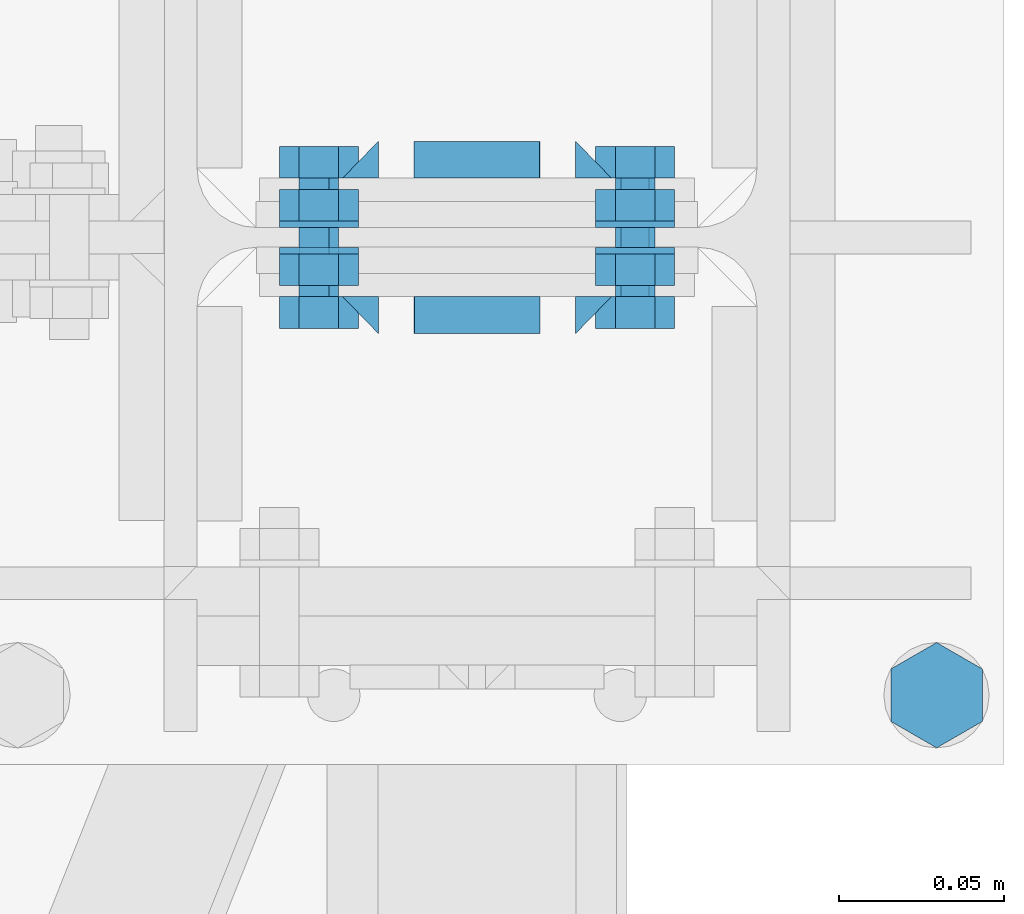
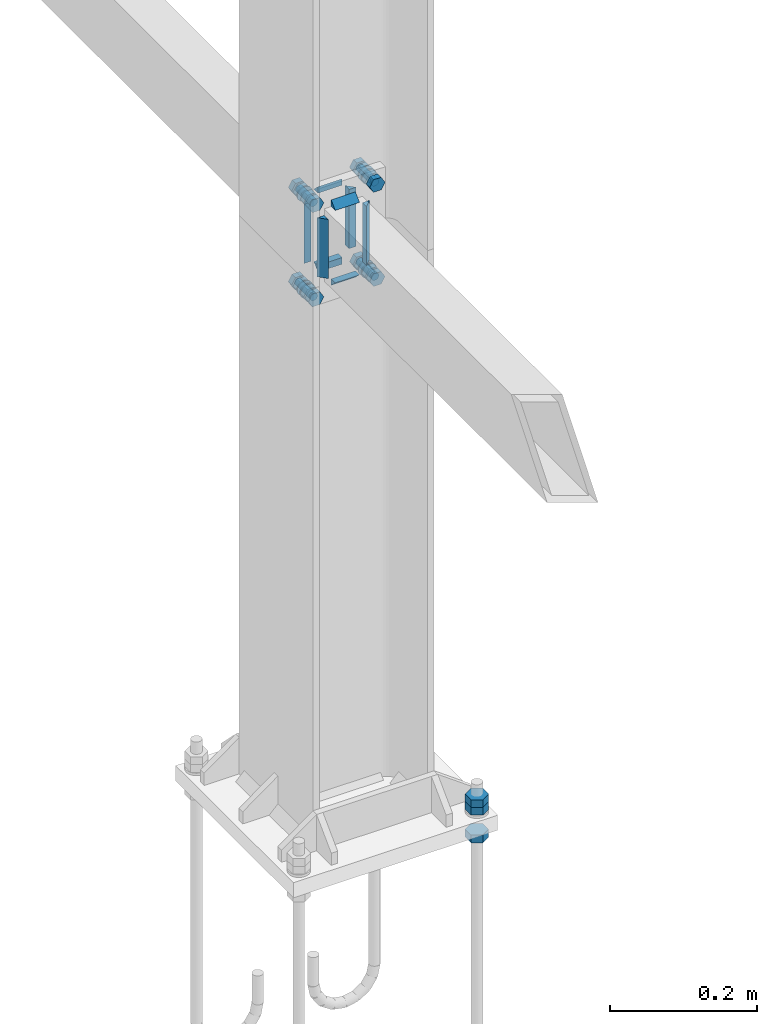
# One storey, part 181 of 251: 34 mechanical fasteners, 16 fasteners.
"""IFC4 building model written with IfcOpenShell, lengths in metres."""

from ifc_helpers import new_model, si_unit, frame, origin_with_axes, place, context, project, spatial, polyline, outline, extrude, type_object, element, save


model = new_model("IFC4")

# Units and contexts
model_context = context("Model", 3, precision=1e-05, world=origin_with_axes())
ifc_project = project(units=[si_unit("LENGTHUNIT", "METRE"), si_unit("AREAUNIT", "SQUARE_METRE"), si_unit("VOLUMEUNIT", "CUBIC_METRE"), si_unit("MASSUNIT", "GRAM", prefix="KILO"), si_unit("TIMEUNIT", "SECOND"), si_unit("PLANEANGLEUNIT", "RADIAN"), si_unit("SOLIDANGLEUNIT", "STERADIAN"), si_unit("THERMODYNAMICTEMPERATUREUNIT", "DEGREE_CELSIUS")], contexts=[model_context])

# Site, building, storey
placement_1 = place(None, origin_with_axes())
site = spatial("IfcSite", under=ifc_project, at=placement_1, Name="Italia", CompositionType="ELEMENT")
building = spatial("IfcBuilding", under=site, at=placement_1, Name="Deposito", CompositionType="ELEMENT")
storey = spatial("IfcBuildingStorey", under=building, at=placement_1, Name="Storey 0", CompositionType="ELEMENT", Elevation=0.0)

# Fasteners
fastener_type_1 = type_object("IfcFastenerType", Name="Collegamenti -001_-002 -002_-001 -002_-003 -003_-002 -003_-004 -004_-003 -004_-008 -008_-004 -009_-010 -010_-009 -010_-011 -011_-010 -011_-012 -012_-011 -012_-016 -016_-012", PredefinedType="WELD")
placement_2 = place(placement_1, origin_with_axes())
fastener_1_placement = place(placement_2, origin_with_axes())
element("IfcFastener", 1, at=fastener_1_placement, inside=storey, type_object=fastener_type_1, Name="Collegamenti -001_-002 -002_-001 -002_-003 -003_-002 -003_-004 -004_-003 -004_-008 -008_-004 -009_-010 -010_-009 -010_-011 -011_-010 -011_-012 -012_-011 -012_-016 -016_-012", context=model_context, shape_type="SweptSolid", body=[
    extrude(outline(polyline([(0.0, 0.0), (0.0111732, -0.0108382), (0.0, -0.0108382), (0.0, 0.0)])), frame((20.0191, 14.982, 1.07079), z_axis=(-1.0, 0.0, 0.0), x_axis=(0.0, -1.0, 0.0)), (0.0, 0.0, 1.0), 0.0381012),
])
fastener_type_2 = type_object("IfcFastenerType", Name="Collegamenti -001_-002 -002_-001 -002_-003 -003_-002 -003_-004 -004_-003 -004_-008 -008_-004 -009_-010 -010_-009 -010_-011 -011_-010 -011_-012 -012_-011 -012_-016 -016_-012", PredefinedType="WELD")
fastener_2_placement = place(placement_2, origin_with_axes())
element("IfcFastener", 2, at=fastener_2_placement, inside=storey, type_object=fastener_type_2, Name="Collegamenti -001_-002 -002_-001 -002_-003 -003_-002 -003_-004 -004_-003 -004_-008 -008_-004 -009_-010 -010_-009 -010_-011 -011_-010 -011_-012 -012_-011 -012_-016 -016_-012", context=model_context, shape_type="SweptSolid", body=[
    extrude(outline(polyline([(0.0, 0.0), (-0.0111732, 0.0108376), (0.0, 0.0108376), (0.0, 0.0)])), frame((20.0408, 14.982, 0.95095), z_axis=(0.0, 0.0, 1.0), x_axis=(0.0, 1.0, 0.0)), (0.0, 0.0, 1.0), 0.0980999),
])
fastener_type_3 = type_object("IfcFastenerType", Name="Collegamenti -001_-002 -002_-001 -002_-003 -003_-002 -003_-004 -004_-003 -004_-008 -008_-004 -009_-010 -010_-009 -010_-011 -011_-010 -011_-012 -012_-011 -012_-016 -016_-012", PredefinedType="WELD")
fastener_3_placement = place(placement_2, origin_with_axes())
element("IfcFastener", 3, at=fastener_3_placement, inside=storey, type_object=fastener_type_3, Name="Collegamenti -001_-002 -002_-001 -002_-003 -003_-002 -003_-004 -004_-003 -004_-008 -008_-004 -009_-010 -010_-009 -010_-011 -011_-010 -011_-012 -012_-011 -012_-016 -016_-012", context=model_context, shape_type="SweptSolid", body=[
    extrude(outline(polyline([(0.0, 0.0), (-0.0111732, 0.0108376), (0.0, 0.0108376), (0.0, 0.0)])), frame((19.9592, 14.982, 1.04905), z_axis=(0.0, 0.0, -1.0), x_axis=(0.0, 1.0, 0.0)), (0.0, 0.0, 1.0), 0.0980999),
])
fastener_type_4 = type_object("IfcFastenerType", Name="Collegamenti -001_-002 -002_-001 -002_-003 -003_-002 -003_-004 -004_-003 -004_-008 -008_-004 -009_-010 -010_-009 -010_-011 -011_-010 -011_-012 -012_-011 -012_-016 -016_-012", PredefinedType="WELD")
fastener_4_placement = place(placement_2, origin_with_axes())
element("IfcFastener", 4, at=fastener_4_placement, inside=storey, type_object=fastener_type_4, Name="Collegamenti -001_-002 -002_-001 -002_-003 -003_-002 -003_-004 -004_-003 -004_-008 -008_-004 -009_-010 -010_-009 -010_-011 -011_-010 -011_-012 -012_-011 -012_-016 -016_-012", context=model_context, shape_type="SweptSolid", body=[
    extrude(outline(polyline([(0.0, 0.0), (-0.0111732, 0.0108382), (0.0, 0.0108382), (0.0, 0.0)])), frame((19.9809, 14.982, 0.929212), z_axis=(1.0, 0.0, 0.0), x_axis=(0.0, 1.0, 0.0)), (0.0, 0.0, 1.0), 0.0381012),
])
fastener_type_5 = type_object("IfcFastenerType", Name="Collegamenti -001_-002 -002_-001 -002_-003 -003_-002 -003_-004 -004_-003 -004_-008 -008_-004 -009_-010 -010_-009 -010_-011 -011_-010 -011_-012 -012_-011 -012_-016 -016_-012", PredefinedType="WELD")
fastener_5_placement = place(placement_2, origin_with_axes())
element("IfcFastener", 5, at=fastener_5_placement, inside=storey, type_object=fastener_type_5, Name="Collegamenti -001_-002 -002_-001 -002_-003 -003_-002 -003_-004 -004_-003 -004_-008 -008_-004 -009_-010 -010_-009 -010_-011 -011_-010 -011_-012 -012_-011 -012_-016 -016_-012", context=model_context, shape_type="SweptSolid", body=[
    extrude(outline(polyline([(0.0, 0.0), (0.0111732, -0.0108382), (0.0, -0.0108382), (0.0, 0.0)])), frame((20.0191, 14.982, 1.07079), z_axis=(-1.0, 0.0, 0.0), x_axis=(0.0, -1.0, 0.0)), (0.0, 0.0, 1.0), 0.0381012),
])
fastener_type_6 = type_object("IfcFastenerType", Name="Collegamenti -001_-002 -002_-001 -002_-003 -003_-002 -003_-004 -004_-003 -004_-008 -008_-004 -009_-010 -010_-009 -010_-011 -011_-010 -011_-012 -012_-011 -012_-016 -016_-012", PredefinedType="WELD")
fastener_6_placement = place(placement_2, origin_with_axes())
element("IfcFastener", 6, at=fastener_6_placement, inside=storey, type_object=fastener_type_6, Name="Collegamenti -001_-002 -002_-001 -002_-003 -003_-002 -003_-004 -004_-003 -004_-008 -008_-004 -009_-010 -010_-009 -010_-011 -011_-010 -011_-012 -012_-011 -012_-016 -016_-012", context=model_context, shape_type="SweptSolid", body=[
    extrude(outline(polyline([(0.0, 0.0), (-0.0111732, 0.0108376), (0.0, 0.0108376), (0.0, 0.0)])), frame((20.0408, 14.982, 0.95095), z_axis=(0.0, 0.0, 1.0), x_axis=(0.0, 1.0, 0.0)), (0.0, 0.0, 1.0), 0.0980999),
])
fastener_type_7 = type_object("IfcFastenerType", Name="Collegamenti -001_-002 -002_-001 -002_-003 -003_-002 -003_-004 -004_-003 -004_-008 -008_-004 -009_-010 -010_-009 -010_-011 -011_-010 -011_-012 -012_-011 -012_-016 -016_-012", PredefinedType="WELD")
fastener_7_placement = place(placement_2, origin_with_axes())
element("IfcFastener", 7, at=fastener_7_placement, inside=storey, type_object=fastener_type_7, Name="Collegamenti -001_-002 -002_-001 -002_-003 -003_-002 -003_-004 -004_-003 -004_-008 -008_-004 -009_-010 -010_-009 -010_-011 -011_-010 -011_-012 -012_-011 -012_-016 -016_-012", context=model_context, shape_type="SweptSolid", body=[
    extrude(outline(polyline([(0.0, 0.0), (-0.0111732, 0.0108376), (0.0, 0.0108376), (0.0, 0.0)])), frame((19.9592, 14.982, 1.04905), z_axis=(0.0, 0.0, -1.0), x_axis=(0.0, 1.0, 0.0)), (0.0, 0.0, 1.0), 0.0980999),
])
fastener_type_8 = type_object("IfcFastenerType", Name="Collegamenti -001_-002 -002_-001 -002_-003 -003_-002 -003_-004 -004_-003 -004_-008 -008_-004 -009_-010 -010_-009 -010_-011 -011_-010 -011_-012 -012_-011 -012_-016 -016_-012", PredefinedType="WELD")
fastener_8_placement = place(placement_2, origin_with_axes())
element("IfcFastener", 8, at=fastener_8_placement, inside=storey, type_object=fastener_type_8, Name="Collegamenti -001_-002 -002_-001 -002_-003 -003_-002 -003_-004 -004_-003 -004_-008 -008_-004 -009_-010 -010_-009 -010_-011 -011_-010 -011_-012 -012_-011 -012_-016 -016_-012", context=model_context, shape_type="SweptSolid", body=[
    extrude(outline(polyline([(0.0, 0.0), (-0.0111732, 0.0108382), (0.0, 0.0108382), (0.0, 0.0)])), frame((19.9809, 14.982, 0.929212), z_axis=(1.0, 0.0, 0.0), x_axis=(0.0, 1.0, 0.0)), (0.0, 0.0, 1.0), 0.0381012),
])

# Mechanical fasteners
mechanical_fastener_type_1 = type_object("IfcMechanicalFastenerType", Name="Collegamenti -001_-002 -002_-001 -002_-003 -003_-002 -003_-004 -004_-003 -004_-008 -008_-004 -009_-010 -010_-009 -010_-011 -011_-010 -011_-012 -012_-011 -012_-016 -016_-012", PredefinedType="BOLT")
mechanical_fastener_1_placement = place(placement_2, origin_with_axes())
element("IfcMechanicalFastener", 9, at=mechanical_fastener_1_placement, inside=storey, type_object=mechanical_fastener_type_1, Name="Collegamenti -001_-002 -002_-001 -002_-003 -003_-002 -003_-004 -004_-003 -004_-008 -008_-004 -009_-010 -010_-009 -010_-011 -011_-010 -011_-012 -012_-011 -012_-016 -016_-012", NominalDiameter=0.0119993, context=model_context, shape_type="SweptSolid", body=[
    extrude(outline(polyline([(0.0, 0.0), (-0.012001, 0.0), (-0.0179996, 0.0103923), (-0.012001, 0.0207846), (0.0, 0.0207846), (0.00600052, 0.0103923), (0.0, 0.0)])), frame((19.958, 14.982, 0.911608), z_axis=(0.0, -1.0, 0.0), x_axis=(1.0, 0.0, 0.0)), (0.0, 0.0, 1.0), 0.00960064),
])
mechanical_fastener_type_2 = type_object("IfcMechanicalFastenerType", Name="Collegamenti -001_-002 -002_-001 -002_-003 -003_-002 -003_-004 -004_-003 -004_-008 -008_-004 -009_-010 -010_-009 -010_-011 -011_-010 -011_-012 -012_-011 -012_-016 -016_-012", PredefinedType="BOLT")
mechanical_fastener_2_placement = place(placement_2, origin_with_axes())
element("IfcMechanicalFastener", 10, at=mechanical_fastener_2_placement, inside=storey, type_object=mechanical_fastener_type_2, Name="Collegamenti -001_-002 -002_-001 -002_-003 -003_-002 -003_-004 -004_-003 -004_-008 -008_-004 -009_-010 -010_-009 -010_-011 -011_-010 -011_-012 -012_-011 -012_-016 -016_-012", NominalDiameter=0.012, context=model_context, shape_type="SweptSolid", body=[
    extrude(outline(polyline([(0.0, 0.0), (-0.000204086, -0.00155294), (-0.000804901, -0.00300002), (-0.00175858, -0.00424266), (-0.00300026, -0.00519615), (-0.00444794, -0.00579554), (-0.00600052, -0.00599998), (-0.0075531, -0.00579554), (-0.00900078, -0.00519615), (-0.0102425, -0.00424266), (-0.0111961, -0.00300002), (-0.011797, -0.00155294), (-0.012001, 0.0), (-0.011797, 0.00155294), (-0.0111961, 0.00300002), (-0.0102425, 0.00424266), (-0.00900078, 0.00519615), (-0.0075531, 0.00579554), (-0.00600052, 0.00599998), (-0.00444794, 0.00579554), (-0.00300026, 0.00519615), (-0.00175858, 0.00424266), (-0.000804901, 0.00300002), (-0.000204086, 0.00155294), (0.0, 0.0)])), frame((19.958, 15.021, 0.922), z_axis=(0.0, -1.0, 0.0), x_axis=(1.0, 0.0, 0.0)), (0.0, 0.0, 1.0), 0.0389996),
])
mechanical_fastener_type_3 = type_object("IfcMechanicalFastenerType", Name="Collegamenti -001_-002 -002_-001 -002_-003 -003_-002 -003_-004 -004_-003 -004_-008 -008_-004 -009_-010 -010_-009 -010_-011 -011_-010 -011_-012 -012_-011 -012_-016 -016_-012", PredefinedType="BOLT")
mechanical_fastener_3_placement = place(placement_2, origin_with_axes())
element("IfcMechanicalFastener", 11, at=mechanical_fastener_3_placement, inside=storey, type_object=mechanical_fastener_type_3, Name="Collegamenti -001_-002 -002_-001 -002_-003 -003_-002 -003_-004 -004_-003 -004_-008 -008_-004 -009_-010 -010_-009 -010_-011 -011_-010 -011_-012 -012_-011 -012_-016 -016_-012", NominalDiameter=0.0119993, context=model_context, shape_type="SweptSolid", body=[
    extrude(outline(polyline([(0.0, 0.0), (-0.012001, 0.0), (-0.0179996, 0.0103923), (-0.012001, 0.0207846), (0.0, 0.0207846), (0.00600052, 0.0103923), (0.0, 0.0)])), frame((19.958, 15.0146, 0.911608), z_axis=(0.0, -1.0, 0.0), x_axis=(1.0, 0.0, 0.0)), (0.0, 0.0, 1.0), 0.00959969),
])
mechanical_fastener_type_4 = type_object("IfcMechanicalFastenerType", Name="Collegamenti -001_-002 -002_-001 -002_-003 -003_-002 -003_-004 -004_-003 -004_-008 -008_-004 -009_-010 -010_-009 -010_-011 -011_-010 -011_-012 -012_-011 -012_-016 -016_-012", PredefinedType="BOLT")
mechanical_fastener_4_placement = place(placement_2, origin_with_axes())
element("IfcMechanicalFastener", 12, at=mechanical_fastener_4_placement, inside=storey, type_object=mechanical_fastener_type_4, Name="Collegamenti -001_-002 -002_-001 -002_-003 -003_-002 -003_-004 -004_-003 -004_-008 -008_-004 -009_-010 -010_-009 -010_-011 -011_-010 -011_-012 -012_-011 -012_-016 -016_-012", NominalDiameter=0.024, context=model_context, shape_type="SweptSolid", body=[
    extrude(outline(polyline([(0.0, 0.0), (-0.000408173, -0.00310582), (-0.00160599, -0.00599998), (-0.00351334, -0.00848526), (-0.00599861, -0.0103923), (-0.00889397, -0.0115911), (-0.0119991, -0.012), (-0.0151043, -0.0115911), (-0.0179996, -0.0103923), (-0.0204849, -0.00848526), (-0.0223923, -0.00599998), (-0.0235901, -0.00310582), (-0.0239983, 0.0), (-0.0235901, 0.00310582), (-0.0223923, 0.00599998), (-0.0204849, 0.00848526), (-0.0179996, 0.0103923), (-0.0151043, 0.0115911), (-0.0119991, 0.012), (-0.00889397, 0.0115911), (-0.00599861, 0.0103923), (-0.00351334, 0.00848526), (-0.00160599, 0.00599998), (-0.000408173, 0.00310582), (0.0, 0.0)])), frame((19.964, 15.005, 0.922), z_axis=(0.0, -1.0, 0.0), x_axis=(1.0, 0.0, 0.0)), (0.0, 0.0, 1.0), 0.00199986),
])
mechanical_fastener_type_5 = type_object("IfcMechanicalFastenerType", Name="Collegamenti -001_-002 -002_-001 -002_-003 -003_-002 -003_-004 -004_-003 -004_-008 -008_-004 -009_-010 -010_-009 -010_-011 -011_-010 -011_-012 -012_-011 -012_-016 -016_-012", PredefinedType="BOLT")
mechanical_fastener_5_placement = place(placement_2, origin_with_axes())
element("IfcMechanicalFastener", 13, at=mechanical_fastener_5_placement, inside=storey, type_object=mechanical_fastener_type_5, Name="Collegamenti -001_-002 -002_-001 -002_-003 -003_-002 -003_-004 -004_-003 -004_-008 -008_-004 -009_-010 -010_-009 -010_-011 -011_-010 -011_-012 -012_-011 -012_-016 -016_-012", NominalDiameter=0.0119993, context=model_context, shape_type="SweptSolid", body=[
    extrude(outline(polyline([(0.0, 0.0), (-0.012001, 0.0), (-0.0180016, 0.0103923), (-0.012001, 0.0207846), (0.0, 0.0207846), (0.00599861, 0.0103923), (0.0, 0.0)])), frame((20.054, 14.982, 0.911608), z_axis=(0.0, -1.0, 0.0), x_axis=(1.0, 0.0, 0.0)), (0.0, 0.0, 1.0), 0.00960064),
])
mechanical_fastener_type_6 = type_object("IfcMechanicalFastenerType", Name="Collegamenti -001_-002 -002_-001 -002_-003 -003_-002 -003_-004 -004_-003 -004_-008 -008_-004 -009_-010 -010_-009 -010_-011 -011_-010 -011_-012 -012_-011 -012_-016 -016_-012", PredefinedType="BOLT")
mechanical_fastener_6_placement = place(placement_2, origin_with_axes())
element("IfcMechanicalFastener", 14, at=mechanical_fastener_6_placement, inside=storey, type_object=mechanical_fastener_type_6, Name="Collegamenti -001_-002 -002_-001 -002_-003 -003_-002 -003_-004 -004_-003 -004_-008 -008_-004 -009_-010 -010_-009 -010_-011 -011_-010 -011_-012 -012_-011 -012_-016 -016_-012", NominalDiameter=0.012, context=model_context, shape_type="SweptSolid", body=[
    extrude(outline(polyline([(0.0, 0.0), (-0.000204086, -0.00155294), (-0.000804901, -0.00300002), (-0.00175858, -0.00424266), (-0.00300026, -0.00519615), (-0.00444794, -0.00579554), (-0.00600052, -0.00599998), (-0.0075531, -0.00579554), (-0.00900078, -0.00519615), (-0.0102425, -0.00424266), (-0.0111961, -0.00300002), (-0.011797, -0.00155294), (-0.012001, 0.0), (-0.011797, 0.00155294), (-0.0111961, 0.00300002), (-0.0102425, 0.00424266), (-0.00900078, 0.00519615), (-0.0075531, 0.00579554), (-0.00600052, 0.00599998), (-0.00444794, 0.00579554), (-0.00300026, 0.00519615), (-0.00175858, 0.00424266), (-0.000804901, 0.00300002), (-0.000204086, 0.00155294), (0.0, 0.0)])), frame((20.054, 15.021, 0.922), z_axis=(0.0, -1.0, 0.0), x_axis=(1.0, 0.0, 0.0)), (0.0, 0.0, 1.0), 0.0389996),
])
mechanical_fastener_type_7 = type_object("IfcMechanicalFastenerType", Name="Collegamenti -001_-002 -002_-001 -002_-003 -003_-002 -003_-004 -004_-003 -004_-008 -008_-004 -009_-010 -010_-009 -010_-011 -011_-010 -011_-012 -012_-011 -012_-016 -016_-012", PredefinedType="BOLT")
mechanical_fastener_7_placement = place(placement_2, origin_with_axes())
element("IfcMechanicalFastener", 15, at=mechanical_fastener_7_placement, inside=storey, type_object=mechanical_fastener_type_7, Name="Collegamenti -001_-002 -002_-001 -002_-003 -003_-002 -003_-004 -004_-003 -004_-008 -008_-004 -009_-010 -010_-009 -010_-011 -011_-010 -011_-012 -012_-011 -012_-016 -016_-012", NominalDiameter=0.0119993, context=model_context, shape_type="SweptSolid", body=[
    extrude(outline(polyline([(0.0, 0.0), (-0.012001, 0.0), (-0.0180016, 0.0103923), (-0.012001, 0.0207846), (0.0, 0.0207846), (0.00599861, 0.0103923), (0.0, 0.0)])), frame((20.054, 15.0146, 0.911608), z_axis=(0.0, -1.0, 0.0), x_axis=(1.0, 0.0, 0.0)), (0.0, 0.0, 1.0), 0.00959969),
])
mechanical_fastener_type_8 = type_object("IfcMechanicalFastenerType", Name="Collegamenti -001_-002 -002_-001 -002_-003 -003_-002 -003_-004 -004_-003 -004_-008 -008_-004 -009_-010 -010_-009 -010_-011 -011_-010 -011_-012 -012_-011 -012_-016 -016_-012", PredefinedType="BOLT")
mechanical_fastener_8_placement = place(placement_2, origin_with_axes())
element("IfcMechanicalFastener", 16, at=mechanical_fastener_8_placement, inside=storey, type_object=mechanical_fastener_type_8, Name="Collegamenti -001_-002 -002_-001 -002_-003 -003_-002 -003_-004 -004_-003 -004_-008 -008_-004 -009_-010 -010_-009 -010_-011 -011_-010 -011_-012 -012_-011 -012_-016 -016_-012", NominalDiameter=0.024, context=model_context, shape_type="SweptSolid", body=[
    extrude(outline(polyline([(0.0, 0.0), (-0.000408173, -0.00310582), (-0.00160599, -0.00599998), (-0.00351334, -0.00848526), (-0.00599861, -0.0103923), (-0.00889397, -0.0115911), (-0.0119991, -0.012), (-0.0151043, -0.0115911), (-0.0179996, -0.0103923), (-0.0204849, -0.00848526), (-0.0223923, -0.00599998), (-0.0235901, -0.00310582), (-0.0239983, 0.0), (-0.0235901, 0.00310582), (-0.0223923, 0.00599998), (-0.0204849, 0.00848526), (-0.0179996, 0.0103923), (-0.0151043, 0.0115911), (-0.0119991, 0.012), (-0.00889397, 0.0115911), (-0.00599861, 0.0103923), (-0.00351334, 0.00848526), (-0.00160599, 0.00599998), (-0.000408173, 0.00310582), (0.0, 0.0)])), frame((20.06, 15.005, 0.922), z_axis=(0.0, -1.0, 0.0), x_axis=(1.0, 0.0, 0.0)), (0.0, 0.0, 1.0), 0.00199986),
])
mechanical_fastener_type_9 = type_object("IfcMechanicalFastenerType", Name="Collegamenti -001_-002 -002_-001 -002_-003 -003_-002 -003_-004 -004_-003 -004_-008 -008_-004 -009_-010 -010_-009 -010_-011 -011_-010 -011_-012 -012_-011 -012_-016 -016_-012", PredefinedType="BOLT")
mechanical_fastener_9_placement = place(placement_2, origin_with_axes())
element("IfcMechanicalFastener", 17, at=mechanical_fastener_9_placement, inside=storey, type_object=mechanical_fastener_type_9, Name="Collegamenti -001_-002 -002_-001 -002_-003 -003_-002 -003_-004 -004_-003 -004_-008 -008_-004 -009_-010 -010_-009 -010_-011 -011_-010 -011_-012 -012_-011 -012_-016 -016_-012", NominalDiameter=0.0119993, context=model_context, shape_type="SweptSolid", body=[
    extrude(outline(polyline([(0.0, 0.0), (-0.012001, 0.0), (-0.0179996, 0.0103923), (-0.012001, 0.0207846), (0.0, 0.0207846), (0.00600052, 0.0103923), (0.0, 0.0)])), frame((19.958, 14.982, 1.06761), z_axis=(0.0, -1.0, 0.0), x_axis=(1.0, 0.0, 0.0)), (0.0, 0.0, 1.0), 0.00960064),
])
mechanical_fastener_type_10 = type_object("IfcMechanicalFastenerType", Name="Collegamenti -001_-002 -002_-001 -002_-003 -003_-002 -003_-004 -004_-003 -004_-008 -008_-004 -009_-010 -010_-009 -010_-011 -011_-010 -011_-012 -012_-011 -012_-016 -016_-012", PredefinedType="BOLT")
mechanical_fastener_10_placement = place(placement_2, origin_with_axes())
element("IfcMechanicalFastener", 18, at=mechanical_fastener_10_placement, inside=storey, type_object=mechanical_fastener_type_10, Name="Collegamenti -001_-002 -002_-001 -002_-003 -003_-002 -003_-004 -004_-003 -004_-008 -008_-004 -009_-010 -010_-009 -010_-011 -011_-010 -011_-012 -012_-011 -012_-016 -016_-012", NominalDiameter=0.012, context=model_context, shape_type="SweptSolid", body=[
    extrude(outline(polyline([(0.0, 0.0), (-0.000204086, -0.00155294), (-0.000804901, -0.00300002), (-0.00175858, -0.00424266), (-0.00300026, -0.00519609), (-0.00444794, -0.0057956), (-0.00600052, -0.00600004), (-0.0075531, -0.0057956), (-0.00900078, -0.00519609), (-0.0102425, -0.00424266), (-0.0111961, -0.00300002), (-0.011797, -0.00155294), (-0.012001, 0.0), (-0.011797, 0.00155294), (-0.0111961, 0.00300002), (-0.0102425, 0.00424266), (-0.00900078, 0.00519609), (-0.0075531, 0.0057956), (-0.00600052, 0.00600004), (-0.00444794, 0.0057956), (-0.00300026, 0.00519609), (-0.00175858, 0.00424266), (-0.000804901, 0.00300002), (-0.000204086, 0.00155294), (0.0, 0.0)])), frame((19.958, 15.021, 1.078), z_axis=(0.0, -1.0, 0.0), x_axis=(1.0, 0.0, 0.0)), (0.0, 0.0, 1.0), 0.0389996),
])
mechanical_fastener_type_11 = type_object("IfcMechanicalFastenerType", Name="Collegamenti -001_-002 -002_-001 -002_-003 -003_-002 -003_-004 -004_-003 -004_-008 -008_-004 -009_-010 -010_-009 -010_-011 -011_-010 -011_-012 -012_-011 -012_-016 -016_-012", PredefinedType="BOLT")
mechanical_fastener_11_placement = place(placement_2, origin_with_axes())
element("IfcMechanicalFastener", 19, at=mechanical_fastener_11_placement, inside=storey, type_object=mechanical_fastener_type_11, Name="Collegamenti -001_-002 -002_-001 -002_-003 -003_-002 -003_-004 -004_-003 -004_-008 -008_-004 -009_-010 -010_-009 -010_-011 -011_-010 -011_-012 -012_-011 -012_-016 -016_-012", NominalDiameter=0.0119993, context=model_context, shape_type="SweptSolid", body=[
    extrude(outline(polyline([(0.0, 0.0), (-0.012001, 0.0), (-0.0179996, 0.0103923), (-0.012001, 0.0207846), (0.0, 0.0207846), (0.00600052, 0.0103923), (0.0, 0.0)])), frame((19.958, 15.0146, 1.06761), z_axis=(0.0, -1.0, 0.0), x_axis=(1.0, 0.0, 0.0)), (0.0, 0.0, 1.0), 0.00959969),
])
mechanical_fastener_type_12 = type_object("IfcMechanicalFastenerType", Name="Collegamenti -001_-002 -002_-001 -002_-003 -003_-002 -003_-004 -004_-003 -004_-008 -008_-004 -009_-010 -010_-009 -010_-011 -011_-010 -011_-012 -012_-011 -012_-016 -016_-012", PredefinedType="BOLT")
mechanical_fastener_12_placement = place(placement_2, origin_with_axes())
element("IfcMechanicalFastener", 20, at=mechanical_fastener_12_placement, inside=storey, type_object=mechanical_fastener_type_12, Name="Collegamenti -001_-002 -002_-001 -002_-003 -003_-002 -003_-004 -004_-003 -004_-008 -008_-004 -009_-010 -010_-009 -010_-011 -011_-010 -011_-012 -012_-011 -012_-016 -016_-012", NominalDiameter=0.024, context=model_context, shape_type="SweptSolid", body=[
    extrude(outline(polyline([(0.0, 0.0), (-0.000408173, -0.00310588), (-0.00160599, -0.00600004), (-0.00351334, -0.00848532), (-0.00599861, -0.0103923), (-0.00889397, -0.0115911), (-0.0119991, -0.012), (-0.0151043, -0.0115911), (-0.0179996, -0.0103923), (-0.0204849, -0.00848532), (-0.0223923, -0.00600004), (-0.0235901, -0.00310588), (-0.0239983, 0.0), (-0.0235901, 0.00310588), (-0.0223923, 0.00600004), (-0.0204849, 0.00848532), (-0.0179996, 0.0103923), (-0.0151043, 0.0115911), (-0.0119991, 0.012), (-0.00889397, 0.0115911), (-0.00599861, 0.0103923), (-0.00351334, 0.00848532), (-0.00160599, 0.00600004), (-0.000408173, 0.00310588), (0.0, 0.0)])), frame((19.964, 15.005, 1.078), z_axis=(0.0, -1.0, 0.0), x_axis=(1.0, 0.0, 0.0)), (0.0, 0.0, 1.0), 0.00199986),
])
mechanical_fastener_type_13 = type_object("IfcMechanicalFastenerType", Name="Collegamenti -001_-002 -002_-001 -002_-003 -003_-002 -003_-004 -004_-003 -004_-008 -008_-004 -009_-010 -010_-009 -010_-011 -011_-010 -011_-012 -012_-011 -012_-016 -016_-012", PredefinedType="BOLT")
mechanical_fastener_13_placement = place(placement_2, origin_with_axes())
element("IfcMechanicalFastener", 21, at=mechanical_fastener_13_placement, inside=storey, type_object=mechanical_fastener_type_13, Name="Collegamenti -001_-002 -002_-001 -002_-003 -003_-002 -003_-004 -004_-003 -004_-008 -008_-004 -009_-010 -010_-009 -010_-011 -011_-010 -011_-012 -012_-011 -012_-016 -016_-012", NominalDiameter=0.0119993, context=model_context, shape_type="SweptSolid", body=[
    extrude(outline(polyline([(0.0, 0.0), (-0.012001, 0.0), (-0.0180016, 0.0103923), (-0.012001, 0.0207846), (0.0, 0.0207846), (0.00599861, 0.0103923), (0.0, 0.0)])), frame((20.054, 14.982, 1.06761), z_axis=(0.0, -1.0, 0.0), x_axis=(1.0, 0.0, 0.0)), (0.0, 0.0, 1.0), 0.00960064),
])
mechanical_fastener_type_14 = type_object("IfcMechanicalFastenerType", Name="Collegamenti -001_-002 -002_-001 -002_-003 -003_-002 -003_-004 -004_-003 -004_-008 -008_-004 -009_-010 -010_-009 -010_-011 -011_-010 -011_-012 -012_-011 -012_-016 -016_-012", PredefinedType="BOLT")
mechanical_fastener_14_placement = place(placement_2, origin_with_axes())
element("IfcMechanicalFastener", 22, at=mechanical_fastener_14_placement, inside=storey, type_object=mechanical_fastener_type_14, Name="Collegamenti -001_-002 -002_-001 -002_-003 -003_-002 -003_-004 -004_-003 -004_-008 -008_-004 -009_-010 -010_-009 -010_-011 -011_-010 -011_-012 -012_-011 -012_-016 -016_-012", NominalDiameter=0.012, context=model_context, shape_type="SweptSolid", body=[
    extrude(outline(polyline([(0.0, 0.0), (-0.000204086, -0.00155294), (-0.000804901, -0.00300002), (-0.00175858, -0.00424266), (-0.00300026, -0.00519609), (-0.00444794, -0.0057956), (-0.00600052, -0.00600004), (-0.0075531, -0.0057956), (-0.00900078, -0.00519609), (-0.0102425, -0.00424266), (-0.0111961, -0.00300002), (-0.011797, -0.00155294), (-0.012001, 0.0), (-0.011797, 0.00155294), (-0.0111961, 0.00300002), (-0.0102425, 0.00424266), (-0.00900078, 0.00519609), (-0.0075531, 0.0057956), (-0.00600052, 0.00600004), (-0.00444794, 0.0057956), (-0.00300026, 0.00519609), (-0.00175858, 0.00424266), (-0.000804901, 0.00300002), (-0.000204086, 0.00155294), (0.0, 0.0)])), frame((20.054, 15.021, 1.078), z_axis=(0.0, -1.0, 0.0), x_axis=(1.0, 0.0, 0.0)), (0.0, 0.0, 1.0), 0.0389996),
])
mechanical_fastener_type_15 = type_object("IfcMechanicalFastenerType", Name="Collegamenti -001_-002 -002_-001 -002_-003 -003_-002 -003_-004 -004_-003 -004_-008 -008_-004 -009_-010 -010_-009 -010_-011 -011_-010 -011_-012 -012_-011 -012_-016 -016_-012", PredefinedType="BOLT")
mechanical_fastener_15_placement = place(placement_2, origin_with_axes())
element("IfcMechanicalFastener", 23, at=mechanical_fastener_15_placement, inside=storey, type_object=mechanical_fastener_type_15, Name="Collegamenti -001_-002 -002_-001 -002_-003 -003_-002 -003_-004 -004_-003 -004_-008 -008_-004 -009_-010 -010_-009 -010_-011 -011_-010 -011_-012 -012_-011 -012_-016 -016_-012", NominalDiameter=0.0119993, context=model_context, shape_type="SweptSolid", body=[
    extrude(outline(polyline([(0.0, 0.0), (-0.012001, 0.0), (-0.0180016, 0.0103923), (-0.012001, 0.0207846), (0.0, 0.0207846), (0.00599861, 0.0103923), (0.0, 0.0)])), frame((20.054, 15.0146, 1.06761), z_axis=(0.0, -1.0, 0.0), x_axis=(1.0, 0.0, 0.0)), (0.0, 0.0, 1.0), 0.00959969),
])
mechanical_fastener_type_16 = type_object("IfcMechanicalFastenerType", Name="Collegamenti -001_-002 -002_-001 -002_-003 -003_-002 -003_-004 -004_-003 -004_-008 -008_-004 -009_-010 -010_-009 -010_-011 -011_-010 -011_-012 -012_-011 -012_-016 -016_-012", PredefinedType="BOLT")
mechanical_fastener_16_placement = place(placement_2, origin_with_axes())
element("IfcMechanicalFastener", 24, at=mechanical_fastener_16_placement, inside=storey, type_object=mechanical_fastener_type_16, Name="Collegamenti -001_-002 -002_-001 -002_-003 -003_-002 -003_-004 -004_-003 -004_-008 -008_-004 -009_-010 -010_-009 -010_-011 -011_-010 -011_-012 -012_-011 -012_-016 -016_-012", NominalDiameter=0.024, context=model_context, shape_type="SweptSolid", body=[
    extrude(outline(polyline([(0.0, 0.0), (-0.000408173, -0.00310588), (-0.00160599, -0.00600004), (-0.00351334, -0.00848532), (-0.00599861, -0.0103923), (-0.00889397, -0.0115911), (-0.0119991, -0.012), (-0.0151043, -0.0115911), (-0.0179996, -0.0103923), (-0.0204849, -0.00848532), (-0.0223923, -0.00600004), (-0.0235901, -0.00310588), (-0.0239983, 0.0), (-0.0235901, 0.00310588), (-0.0223923, 0.00600004), (-0.0204849, 0.00848532), (-0.0179996, 0.0103923), (-0.0151043, 0.0115911), (-0.0119991, 0.012), (-0.00889397, 0.0115911), (-0.00599861, 0.0103923), (-0.00351334, 0.00848532), (-0.00160599, 0.00600004), (-0.000408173, 0.00310588), (0.0, 0.0)])), frame((20.06, 15.005, 1.078), z_axis=(0.0, -1.0, 0.0), x_axis=(1.0, 0.0, 0.0)), (0.0, 0.0, 1.0), 0.00199986),
])

# Fasteners
fastener_type_9 = type_object("IfcFastenerType", Name="Collegamenti -001_-002 -002_-001 -002_-003 -003_-002 -003_-004 -004_-003 -004_-008 -008_-004 -009_-010 -010_-009 -010_-011 -011_-010 -011_-012 -012_-011 -012_-016 -016_-012", PredefinedType="WELD")
fastener_9_placement = place(placement_2, origin_with_axes())
element("IfcFastener", 25, at=fastener_9_placement, inside=storey, type_object=fastener_type_9, Name="Collegamenti -001_-002 -002_-001 -002_-003 -003_-002 -003_-004 -004_-003 -004_-008 -008_-004 -009_-010 -010_-009 -010_-011 -011_-010 -011_-012 -012_-011 -012_-016 -016_-012", context=model_context, shape_type="SweptSolid", body=[
    extrude(outline(polyline([(0.0, 0.0), (0.0111732, -0.0108382), (0.0, -0.0108382), (0.0, 0.0)])), frame((19.9809, 15.018, 1.07079), z_axis=(1.0, 0.0, 0.0), x_axis=(0.0, 1.0, 0.0)), (0.0, 0.0, 1.0), 0.0381012),
])
fastener_type_10 = type_object("IfcFastenerType", Name="Collegamenti -001_-002 -002_-001 -002_-003 -003_-002 -003_-004 -004_-003 -004_-008 -008_-004 -009_-010 -010_-009 -010_-011 -011_-010 -011_-012 -012_-011 -012_-016 -016_-012", PredefinedType="WELD")
fastener_10_placement = place(placement_2, origin_with_axes())
element("IfcFastener", 26, at=fastener_10_placement, inside=storey, type_object=fastener_type_10, Name="Collegamenti -001_-002 -002_-001 -002_-003 -003_-002 -003_-004 -004_-003 -004_-008 -008_-004 -009_-010 -010_-009 -010_-011 -011_-010 -011_-012 -012_-011 -012_-016 -016_-012", context=model_context, shape_type="SweptSolid", body=[
    extrude(outline(polyline([(0.0, 0.0), (0.0111732, -0.0108376), (0.0, -0.0108376), (0.0, 0.0)])), frame((19.9592, 15.018, 0.95095), z_axis=(0.0, 0.0, 1.0), x_axis=(0.0, 1.0, 0.0)), (0.0, 0.0, 1.0), 0.0980999),
])
fastener_type_11 = type_object("IfcFastenerType", Name="Collegamenti -001_-002 -002_-001 -002_-003 -003_-002 -003_-004 -004_-003 -004_-008 -008_-004 -009_-010 -010_-009 -010_-011 -011_-010 -011_-012 -012_-011 -012_-016 -016_-012", PredefinedType="WELD")
fastener_11_placement = place(placement_2, origin_with_axes())
element("IfcFastener", 27, at=fastener_11_placement, inside=storey, type_object=fastener_type_11, Name="Collegamenti -001_-002 -002_-001 -002_-003 -003_-002 -003_-004 -004_-003 -004_-008 -008_-004 -009_-010 -010_-009 -010_-011 -011_-010 -011_-012 -012_-011 -012_-016 -016_-012", context=model_context, shape_type="SweptSolid", body=[
    extrude(outline(polyline([(0.0, 0.0), (0.0111732, -0.0108376), (0.0, -0.0108376), (0.0, 0.0)])), frame((20.0408, 15.018, 1.04905), z_axis=(0.0, 0.0, -1.0), x_axis=(0.0, 1.0, 0.0)), (0.0, 0.0, 1.0), 0.0980999),
])
fastener_type_12 = type_object("IfcFastenerType", Name="Collegamenti -001_-002 -002_-001 -002_-003 -003_-002 -003_-004 -004_-003 -004_-008 -008_-004 -009_-010 -010_-009 -010_-011 -011_-010 -011_-012 -012_-011 -012_-016 -016_-012", PredefinedType="WELD")
fastener_12_placement = place(placement_2, origin_with_axes())
element("IfcFastener", 28, at=fastener_12_placement, inside=storey, type_object=fastener_type_12, Name="Collegamenti -001_-002 -002_-001 -002_-003 -003_-002 -003_-004 -004_-003 -004_-008 -008_-004 -009_-010 -010_-009 -010_-011 -011_-010 -011_-012 -012_-011 -012_-016 -016_-012", context=model_context, shape_type="SweptSolid", body=[
    extrude(outline(polyline([(0.0, 0.0), (-0.0111732, 0.0108382), (0.0, 0.0108382), (0.0, 0.0)])), frame((20.0191, 15.018, 0.929212), z_axis=(-1.0, 0.0, 0.0), x_axis=(0.0, -1.0, 0.0)), (0.0, 0.0, 1.0), 0.0381012),
])
fastener_type_13 = type_object("IfcFastenerType", Name="Collegamenti -001_-002 -002_-001 -002_-003 -003_-002 -003_-004 -004_-003 -004_-008 -008_-004 -009_-010 -010_-009 -010_-011 -011_-010 -011_-012 -012_-011 -012_-016 -016_-012", PredefinedType="WELD")
fastener_13_placement = place(placement_2, origin_with_axes())
element("IfcFastener", 29, at=fastener_13_placement, inside=storey, type_object=fastener_type_13, Name="Collegamenti -001_-002 -002_-001 -002_-003 -003_-002 -003_-004 -004_-003 -004_-008 -008_-004 -009_-010 -010_-009 -010_-011 -011_-010 -011_-012 -012_-011 -012_-016 -016_-012", context=model_context, shape_type="SweptSolid", body=[
    extrude(outline(polyline([(0.0, 0.0), (0.0111732, -0.0108382), (0.0, -0.0108382), (0.0, 0.0)])), frame((19.9809, 15.018, 1.07079), z_axis=(1.0, 0.0, 0.0), x_axis=(0.0, 1.0, 0.0)), (0.0, 0.0, 1.0), 0.0381012),
])
fastener_type_14 = type_object("IfcFastenerType", Name="Collegamenti -001_-002 -002_-001 -002_-003 -003_-002 -003_-004 -004_-003 -004_-008 -008_-004 -009_-010 -010_-009 -010_-011 -011_-010 -011_-012 -012_-011 -012_-016 -016_-012", PredefinedType="WELD")
fastener_14_placement = place(placement_2, origin_with_axes())
element("IfcFastener", 30, at=fastener_14_placement, inside=storey, type_object=fastener_type_14, Name="Collegamenti -001_-002 -002_-001 -002_-003 -003_-002 -003_-004 -004_-003 -004_-008 -008_-004 -009_-010 -010_-009 -010_-011 -011_-010 -011_-012 -012_-011 -012_-016 -016_-012", context=model_context, shape_type="SweptSolid", body=[
    extrude(outline(polyline([(0.0, 0.0), (0.0111732, -0.0108376), (0.0, -0.0108376), (0.0, 0.0)])), frame((19.9592, 15.018, 0.95095), z_axis=(0.0, 0.0, 1.0), x_axis=(0.0, 1.0, 0.0)), (0.0, 0.0, 1.0), 0.0980999),
])
fastener_type_15 = type_object("IfcFastenerType", Name="Collegamenti -001_-002 -002_-001 -002_-003 -003_-002 -003_-004 -004_-003 -004_-008 -008_-004 -009_-010 -010_-009 -010_-011 -011_-010 -011_-012 -012_-011 -012_-016 -016_-012", PredefinedType="WELD")
fastener_15_placement = place(placement_2, origin_with_axes())
element("IfcFastener", 31, at=fastener_15_placement, inside=storey, type_object=fastener_type_15, Name="Collegamenti -001_-002 -002_-001 -002_-003 -003_-002 -003_-004 -004_-003 -004_-008 -008_-004 -009_-010 -010_-009 -010_-011 -011_-010 -011_-012 -012_-011 -012_-016 -016_-012", context=model_context, shape_type="SweptSolid", body=[
    extrude(outline(polyline([(0.0, 0.0), (0.0111732, -0.0108376), (0.0, -0.0108376), (0.0, 0.0)])), frame((20.0408, 15.018, 1.04905), z_axis=(0.0, 0.0, -1.0), x_axis=(0.0, 1.0, 0.0)), (0.0, 0.0, 1.0), 0.0980999),
])
fastener_type_16 = type_object("IfcFastenerType", Name="Collegamenti -001_-002 -002_-001 -002_-003 -003_-002 -003_-004 -004_-003 -004_-008 -008_-004 -009_-010 -010_-009 -010_-011 -011_-010 -011_-012 -012_-011 -012_-016 -016_-012", PredefinedType="WELD")
fastener_16_placement = place(placement_2, origin_with_axes())
element("IfcFastener", 32, at=fastener_16_placement, inside=storey, type_object=fastener_type_16, Name="Collegamenti -001_-002 -002_-001 -002_-003 -003_-002 -003_-004 -004_-003 -004_-008 -008_-004 -009_-010 -010_-009 -010_-011 -011_-010 -011_-012 -012_-011 -012_-016 -016_-012", context=model_context, shape_type="SweptSolid", body=[
    extrude(outline(polyline([(0.0, 0.0), (-0.0111732, 0.0108382), (0.0, 0.0108382), (0.0, 0.0)])), frame((20.0191, 15.018, 0.929212), z_axis=(-1.0, 0.0, 0.0), x_axis=(0.0, -1.0, 0.0)), (0.0, 0.0, 1.0), 0.0381012),
])

# Mechanical fasteners
mechanical_fastener_type_17 = type_object("IfcMechanicalFastenerType", Name="Collegamenti -001_-002 -002_-001 -002_-003 -003_-002 -003_-004 -004_-003 -004_-008 -008_-004 -009_-010 -010_-009 -010_-011 -011_-010 -011_-012 -012_-011 -012_-016 -016_-012", PredefinedType="BOLT")
mechanical_fastener_17_placement = place(placement_2, origin_with_axes())
element("IfcMechanicalFastener", 33, at=mechanical_fastener_17_placement, inside=storey, type_object=mechanical_fastener_type_17, Name="Collegamenti -001_-002 -002_-001 -002_-003 -003_-002 -003_-004 -004_-003 -004_-008 -008_-004 -009_-010 -010_-009 -010_-011 -011_-010 -011_-012 -012_-011 -012_-016 -016_-012", NominalDiameter=0.0119993, context=model_context, shape_type="SweptSolid", body=[
    extrude(outline(polyline([(0.0, 0.0), (-0.012001, 0.0), (-0.0179996, 0.0103923), (-0.012001, 0.0207846), (0.0, 0.0207846), (0.00600052, 0.0103923), (0.0, 0.0)])), frame((20.042, 15.018, 0.911608), z_axis=(0.0, 1.0, 0.0), x_axis=(-1.0, 0.0, 0.0)), (0.0, 0.0, 1.0), 0.00960064),
])
mechanical_fastener_type_18 = type_object("IfcMechanicalFastenerType", Name="Collegamenti -001_-002 -002_-001 -002_-003 -003_-002 -003_-004 -004_-003 -004_-008 -008_-004 -009_-010 -010_-009 -010_-011 -011_-010 -011_-012 -012_-011 -012_-016 -016_-012", PredefinedType="BOLT")
mechanical_fastener_18_placement = place(placement_2, origin_with_axes())
element("IfcMechanicalFastener", 34, at=mechanical_fastener_18_placement, inside=storey, type_object=mechanical_fastener_type_18, Name="Collegamenti -001_-002 -002_-001 -002_-003 -003_-002 -003_-004 -004_-003 -004_-008 -008_-004 -009_-010 -010_-009 -010_-011 -011_-010 -011_-012 -012_-011 -012_-016 -016_-012", NominalDiameter=0.012, context=model_context, shape_type="SweptSolid", body=[
    extrude(outline(polyline([(0.0, 0.0), (-0.000204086, -0.00155294), (-0.000804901, -0.00300002), (-0.00175858, -0.00424266), (-0.00300026, -0.00519615), (-0.00444794, -0.00579554), (-0.00600052, -0.00599998), (-0.0075531, -0.00579554), (-0.00900078, -0.00519615), (-0.0102425, -0.00424266), (-0.0111961, -0.00300002), (-0.011797, -0.00155294), (-0.012001, 0.0), (-0.011797, 0.00155294), (-0.0111961, 0.00300002), (-0.0102425, 0.00424266), (-0.00900078, 0.00519615), (-0.0075531, 0.00579554), (-0.00600052, 0.00599998), (-0.00444794, 0.00579554), (-0.00300026, 0.00519615), (-0.00175858, 0.00424266), (-0.000804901, 0.00300002), (-0.000204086, 0.00155294), (0.0, 0.0)])), frame((20.042, 14.979, 0.922), z_axis=(0.0, 1.0, 0.0), x_axis=(-1.0, 0.0, 0.0)), (0.0, 0.0, 1.0), 0.0389996),
])
mechanical_fastener_type_19 = type_object("IfcMechanicalFastenerType", Name="Collegamenti -001_-002 -002_-001 -002_-003 -003_-002 -003_-004 -004_-003 -004_-008 -008_-004 -009_-010 -010_-009 -010_-011 -011_-010 -011_-012 -012_-011 -012_-016 -016_-012", PredefinedType="BOLT")
mechanical_fastener_19_placement = place(placement_2, origin_with_axes())
element("IfcMechanicalFastener", 35, at=mechanical_fastener_19_placement, inside=storey, type_object=mechanical_fastener_type_19, Name="Collegamenti -001_-002 -002_-001 -002_-003 -003_-002 -003_-004 -004_-003 -004_-008 -008_-004 -009_-010 -010_-009 -010_-011 -011_-010 -011_-012 -012_-011 -012_-016 -016_-012", NominalDiameter=0.0119993, context=model_context, shape_type="SweptSolid", body=[
    extrude(outline(polyline([(0.0, 0.0), (-0.012001, 0.0), (-0.0179996, 0.0103923), (-0.012001, 0.0207846), (0.0, 0.0207846), (0.00600052, 0.0103923), (0.0, 0.0)])), frame((20.042, 14.9854, 0.911608), z_axis=(0.0, 1.0, 0.0), x_axis=(-1.0, 0.0, 0.0)), (0.0, 0.0, 1.0), 0.00959969),
])
mechanical_fastener_type_20 = type_object("IfcMechanicalFastenerType", Name="Collegamenti -001_-002 -002_-001 -002_-003 -003_-002 -003_-004 -004_-003 -004_-008 -008_-004 -009_-010 -010_-009 -010_-011 -011_-010 -011_-012 -012_-011 -012_-016 -016_-012", PredefinedType="BOLT")
mechanical_fastener_20_placement = place(placement_2, origin_with_axes())
element("IfcMechanicalFastener", 36, at=mechanical_fastener_20_placement, inside=storey, type_object=mechanical_fastener_type_20, Name="Collegamenti -001_-002 -002_-001 -002_-003 -003_-002 -003_-004 -004_-003 -004_-008 -008_-004 -009_-010 -010_-009 -010_-011 -011_-010 -011_-012 -012_-011 -012_-016 -016_-012", NominalDiameter=0.024, context=model_context, shape_type="SweptSolid", body=[
    extrude(outline(polyline([(0.0, 0.0), (-0.000408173, -0.00310582), (-0.00160599, -0.00599998), (-0.00351334, -0.00848526), (-0.00599861, -0.0103923), (-0.00889397, -0.0115911), (-0.0119991, -0.012), (-0.0151043, -0.0115911), (-0.0179996, -0.0103923), (-0.0204849, -0.00848526), (-0.0223923, -0.00599998), (-0.0235901, -0.00310582), (-0.0239983, 0.0), (-0.0235901, 0.00310582), (-0.0223923, 0.00599998), (-0.0204849, 0.00848526), (-0.0179996, 0.0103923), (-0.0151043, 0.0115911), (-0.0119991, 0.012), (-0.00889397, 0.0115911), (-0.00599861, 0.0103923), (-0.00351334, 0.00848526), (-0.00160599, 0.00599998), (-0.000408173, 0.00310582), (0.0, 0.0)])), frame((20.036, 14.995, 0.922), z_axis=(0.0, 1.0, 0.0), x_axis=(-1.0, 0.0, 0.0)), (0.0, 0.0, 1.0), 0.00199986),
])
mechanical_fastener_type_21 = type_object("IfcMechanicalFastenerType", Name="Collegamenti -001_-002 -002_-001 -002_-003 -003_-002 -003_-004 -004_-003 -004_-008 -008_-004 -009_-010 -010_-009 -010_-011 -011_-010 -011_-012 -012_-011 -012_-016 -016_-012", PredefinedType="BOLT")
mechanical_fastener_21_placement = place(placement_2, origin_with_axes())
element("IfcMechanicalFastener", 37, at=mechanical_fastener_21_placement, inside=storey, type_object=mechanical_fastener_type_21, Name="Collegamenti -001_-002 -002_-001 -002_-003 -003_-002 -003_-004 -004_-003 -004_-008 -008_-004 -009_-010 -010_-009 -010_-011 -011_-010 -011_-012 -012_-011 -012_-016 -016_-012", NominalDiameter=0.0119993, context=model_context, shape_type="SweptSolid", body=[
    extrude(outline(polyline([(0.0, 0.0), (-0.012001, 0.0), (-0.0180016, 0.0103923), (-0.012001, 0.0207846), (0.0, 0.0207846), (0.00599861, 0.0103923), (0.0, 0.0)])), frame((19.946, 15.018, 0.911608), z_axis=(0.0, 1.0, 0.0), x_axis=(-1.0, 0.0, 0.0)), (0.0, 0.0, 1.0), 0.00960064),
])
mechanical_fastener_type_22 = type_object("IfcMechanicalFastenerType", Name="Collegamenti -001_-002 -002_-001 -002_-003 -003_-002 -003_-004 -004_-003 -004_-008 -008_-004 -009_-010 -010_-009 -010_-011 -011_-010 -011_-012 -012_-011 -012_-016 -016_-012", PredefinedType="BOLT")
mechanical_fastener_22_placement = place(placement_2, origin_with_axes())
element("IfcMechanicalFastener", 38, at=mechanical_fastener_22_placement, inside=storey, type_object=mechanical_fastener_type_22, Name="Collegamenti -001_-002 -002_-001 -002_-003 -003_-002 -003_-004 -004_-003 -004_-008 -008_-004 -009_-010 -010_-009 -010_-011 -011_-010 -011_-012 -012_-011 -012_-016 -016_-012", NominalDiameter=0.012, context=model_context, shape_type="SweptSolid", body=[
    extrude(outline(polyline([(0.0, 0.0), (-0.000204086, -0.00155294), (-0.000804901, -0.00300002), (-0.00175858, -0.00424266), (-0.00300026, -0.00519615), (-0.00444794, -0.00579554), (-0.00600052, -0.00599998), (-0.0075531, -0.00579554), (-0.00900078, -0.00519615), (-0.0102425, -0.00424266), (-0.0111961, -0.00300002), (-0.011797, -0.00155294), (-0.012001, 0.0), (-0.011797, 0.00155294), (-0.0111961, 0.00300002), (-0.0102425, 0.00424266), (-0.00900078, 0.00519615), (-0.0075531, 0.00579554), (-0.00600052, 0.00599998), (-0.00444794, 0.00579554), (-0.00300026, 0.00519615), (-0.00175858, 0.00424266), (-0.000804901, 0.00300002), (-0.000204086, 0.00155294), (0.0, 0.0)])), frame((19.946, 14.979, 0.922), z_axis=(0.0, 1.0, 0.0), x_axis=(-1.0, 0.0, 0.0)), (0.0, 0.0, 1.0), 0.0389996),
])
mechanical_fastener_type_23 = type_object("IfcMechanicalFastenerType", Name="Collegamenti -001_-002 -002_-001 -002_-003 -003_-002 -003_-004 -004_-003 -004_-008 -008_-004 -009_-010 -010_-009 -010_-011 -011_-010 -011_-012 -012_-011 -012_-016 -016_-012", PredefinedType="BOLT")
mechanical_fastener_23_placement = place(placement_2, origin_with_axes())
element("IfcMechanicalFastener", 39, at=mechanical_fastener_23_placement, inside=storey, type_object=mechanical_fastener_type_23, Name="Collegamenti -001_-002 -002_-001 -002_-003 -003_-002 -003_-004 -004_-003 -004_-008 -008_-004 -009_-010 -010_-009 -010_-011 -011_-010 -011_-012 -012_-011 -012_-016 -016_-012", NominalDiameter=0.0119993, context=model_context, shape_type="SweptSolid", body=[
    extrude(outline(polyline([(0.0, 0.0), (-0.012001, 0.0), (-0.0180016, 0.0103923), (-0.012001, 0.0207846), (0.0, 0.0207846), (0.00599861, 0.0103923), (0.0, 0.0)])), frame((19.946, 14.9854, 0.911608), z_axis=(0.0, 1.0, 0.0), x_axis=(-1.0, 0.0, 0.0)), (0.0, 0.0, 1.0), 0.00959969),
])
mechanical_fastener_type_24 = type_object("IfcMechanicalFastenerType", Name="Collegamenti -001_-002 -002_-001 -002_-003 -003_-002 -003_-004 -004_-003 -004_-008 -008_-004 -009_-010 -010_-009 -010_-011 -011_-010 -011_-012 -012_-011 -012_-016 -016_-012", PredefinedType="BOLT")
mechanical_fastener_24_placement = place(placement_2, origin_with_axes())
element("IfcMechanicalFastener", 40, at=mechanical_fastener_24_placement, inside=storey, type_object=mechanical_fastener_type_24, Name="Collegamenti -001_-002 -002_-001 -002_-003 -003_-002 -003_-004 -004_-003 -004_-008 -008_-004 -009_-010 -010_-009 -010_-011 -011_-010 -011_-012 -012_-011 -012_-016 -016_-012", NominalDiameter=0.024, context=model_context, shape_type="SweptSolid", body=[
    extrude(outline(polyline([(0.0, 0.0), (-0.000408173, -0.00310582), (-0.00160599, -0.00599998), (-0.00351334, -0.00848526), (-0.00599861, -0.0103923), (-0.00889397, -0.0115911), (-0.0119991, -0.012), (-0.0151043, -0.0115911), (-0.0179996, -0.0103923), (-0.0204849, -0.00848526), (-0.0223923, -0.00599998), (-0.0235901, -0.00310582), (-0.0239983, 0.0), (-0.0235901, 0.00310582), (-0.0223923, 0.00599998), (-0.0204849, 0.00848526), (-0.0179996, 0.0103923), (-0.0151043, 0.0115911), (-0.0119991, 0.012), (-0.00889397, 0.0115911), (-0.00599861, 0.0103923), (-0.00351334, 0.00848526), (-0.00160599, 0.00599998), (-0.000408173, 0.00310582), (0.0, 0.0)])), frame((19.94, 14.995, 0.922), z_axis=(0.0, 1.0, 0.0), x_axis=(-1.0, 0.0, 0.0)), (0.0, 0.0, 1.0), 0.00199986),
])
mechanical_fastener_type_25 = type_object("IfcMechanicalFastenerType", Name="Collegamenti -001_-002 -002_-001 -002_-003 -003_-002 -003_-004 -004_-003 -004_-008 -008_-004 -009_-010 -010_-009 -010_-011 -011_-010 -011_-012 -012_-011 -012_-016 -016_-012", PredefinedType="BOLT")
mechanical_fastener_25_placement = place(placement_2, origin_with_axes())
element("IfcMechanicalFastener", 41, at=mechanical_fastener_25_placement, inside=storey, type_object=mechanical_fastener_type_25, Name="Collegamenti -001_-002 -002_-001 -002_-003 -003_-002 -003_-004 -004_-003 -004_-008 -008_-004 -009_-010 -010_-009 -010_-011 -011_-010 -011_-012 -012_-011 -012_-016 -016_-012", NominalDiameter=0.0119993, context=model_context, shape_type="SweptSolid", body=[
    extrude(outline(polyline([(0.0, 0.0), (-0.012001, 0.0), (-0.0179996, 0.0103923), (-0.012001, 0.0207846), (0.0, 0.0207846), (0.00600052, 0.0103923), (0.0, 0.0)])), frame((20.042, 15.018, 1.06761), z_axis=(0.0, 1.0, 0.0), x_axis=(-1.0, 0.0, 0.0)), (0.0, 0.0, 1.0), 0.00960064),
])
mechanical_fastener_type_26 = type_object("IfcMechanicalFastenerType", Name="Collegamenti -001_-002 -002_-001 -002_-003 -003_-002 -003_-004 -004_-003 -004_-008 -008_-004 -009_-010 -010_-009 -010_-011 -011_-010 -011_-012 -012_-011 -012_-016 -016_-012", PredefinedType="BOLT")
mechanical_fastener_26_placement = place(placement_2, origin_with_axes())
element("IfcMechanicalFastener", 42, at=mechanical_fastener_26_placement, inside=storey, type_object=mechanical_fastener_type_26, Name="Collegamenti -001_-002 -002_-001 -002_-003 -003_-002 -003_-004 -004_-003 -004_-008 -008_-004 -009_-010 -010_-009 -010_-011 -011_-010 -011_-012 -012_-011 -012_-016 -016_-012", NominalDiameter=0.012, context=model_context, shape_type="SweptSolid", body=[
    extrude(outline(polyline([(0.0, 0.0), (-0.000204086, -0.00155294), (-0.000804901, -0.00300002), (-0.00175858, -0.00424266), (-0.00300026, -0.00519609), (-0.00444794, -0.0057956), (-0.00600052, -0.00600004), (-0.0075531, -0.0057956), (-0.00900078, -0.00519609), (-0.0102425, -0.00424266), (-0.0111961, -0.00300002), (-0.011797, -0.00155294), (-0.012001, 0.0), (-0.011797, 0.00155294), (-0.0111961, 0.00300002), (-0.0102425, 0.00424266), (-0.00900078, 0.00519609), (-0.0075531, 0.0057956), (-0.00600052, 0.00600004), (-0.00444794, 0.0057956), (-0.00300026, 0.00519609), (-0.00175858, 0.00424266), (-0.000804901, 0.00300002), (-0.000204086, 0.00155294), (0.0, 0.0)])), frame((20.042, 14.979, 1.078), z_axis=(0.0, 1.0, 0.0), x_axis=(-1.0, 0.0, 0.0)), (0.0, 0.0, 1.0), 0.0389996),
])
mechanical_fastener_type_27 = type_object("IfcMechanicalFastenerType", Name="Collegamenti -001_-002 -002_-001 -002_-003 -003_-002 -003_-004 -004_-003 -004_-008 -008_-004 -009_-010 -010_-009 -010_-011 -011_-010 -011_-012 -012_-011 -012_-016 -016_-012", PredefinedType="BOLT")
mechanical_fastener_27_placement = place(placement_2, origin_with_axes())
element("IfcMechanicalFastener", 43, at=mechanical_fastener_27_placement, inside=storey, type_object=mechanical_fastener_type_27, Name="Collegamenti -001_-002 -002_-001 -002_-003 -003_-002 -003_-004 -004_-003 -004_-008 -008_-004 -009_-010 -010_-009 -010_-011 -011_-010 -011_-012 -012_-011 -012_-016 -016_-012", NominalDiameter=0.0119993, context=model_context, shape_type="SweptSolid", body=[
    extrude(outline(polyline([(0.0, 0.0), (-0.012001, 0.0), (-0.0179996, 0.0103923), (-0.012001, 0.0207846), (0.0, 0.0207846), (0.00600052, 0.0103923), (0.0, 0.0)])), frame((20.042, 14.9854, 1.06761), z_axis=(0.0, 1.0, 0.0), x_axis=(-1.0, 0.0, 0.0)), (0.0, 0.0, 1.0), 0.00959969),
])
mechanical_fastener_type_28 = type_object("IfcMechanicalFastenerType", Name="Collegamenti -001_-002 -002_-001 -002_-003 -003_-002 -003_-004 -004_-003 -004_-008 -008_-004 -009_-010 -010_-009 -010_-011 -011_-010 -011_-012 -012_-011 -012_-016 -016_-012", PredefinedType="BOLT")
mechanical_fastener_28_placement = place(placement_2, origin_with_axes())
element("IfcMechanicalFastener", 44, at=mechanical_fastener_28_placement, inside=storey, type_object=mechanical_fastener_type_28, Name="Collegamenti -001_-002 -002_-001 -002_-003 -003_-002 -003_-004 -004_-003 -004_-008 -008_-004 -009_-010 -010_-009 -010_-011 -011_-010 -011_-012 -012_-011 -012_-016 -016_-012", NominalDiameter=0.024, context=model_context, shape_type="SweptSolid", body=[
    extrude(outline(polyline([(0.0, 0.0), (-0.000408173, -0.00310588), (-0.00160599, -0.00600004), (-0.00351334, -0.00848532), (-0.00599861, -0.0103923), (-0.00889397, -0.0115911), (-0.0119991, -0.012), (-0.0151043, -0.0115911), (-0.0179996, -0.0103923), (-0.0204849, -0.00848532), (-0.0223923, -0.00600004), (-0.0235901, -0.00310588), (-0.0239983, 0.0), (-0.0235901, 0.00310588), (-0.0223923, 0.00600004), (-0.0204849, 0.00848532), (-0.0179996, 0.0103923), (-0.0151043, 0.0115911), (-0.0119991, 0.012), (-0.00889397, 0.0115911), (-0.00599861, 0.0103923), (-0.00351334, 0.00848532), (-0.00160599, 0.00600004), (-0.000408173, 0.00310588), (0.0, 0.0)])), frame((20.036, 14.995, 1.078), z_axis=(0.0, 1.0, 0.0), x_axis=(-1.0, 0.0, 0.0)), (0.0, 0.0, 1.0), 0.00199986),
])
mechanical_fastener_type_29 = type_object("IfcMechanicalFastenerType", Name="Collegamenti -001_-002 -002_-001 -002_-003 -003_-002 -003_-004 -004_-003 -004_-008 -008_-004 -009_-010 -010_-009 -010_-011 -011_-010 -011_-012 -012_-011 -012_-016 -016_-012", PredefinedType="BOLT")
mechanical_fastener_29_placement = place(placement_2, origin_with_axes())
element("IfcMechanicalFastener", 45, at=mechanical_fastener_29_placement, inside=storey, type_object=mechanical_fastener_type_29, Name="Collegamenti -001_-002 -002_-001 -002_-003 -003_-002 -003_-004 -004_-003 -004_-008 -008_-004 -009_-010 -010_-009 -010_-011 -011_-010 -011_-012 -012_-011 -012_-016 -016_-012", NominalDiameter=0.0119993, context=model_context, shape_type="SweptSolid", body=[
    extrude(outline(polyline([(0.0, 0.0), (-0.012001, 0.0), (-0.0180016, 0.0103923), (-0.012001, 0.0207846), (0.0, 0.0207846), (0.00599861, 0.0103923), (0.0, 0.0)])), frame((19.946, 15.018, 1.06761), z_axis=(0.0, 1.0, 0.0), x_axis=(-1.0, 0.0, 0.0)), (0.0, 0.0, 1.0), 0.00960064),
])
mechanical_fastener_type_30 = type_object("IfcMechanicalFastenerType", Name="Collegamenti -001_-002 -002_-001 -002_-003 -003_-002 -003_-004 -004_-003 -004_-008 -008_-004 -009_-010 -010_-009 -010_-011 -011_-010 -011_-012 -012_-011 -012_-016 -016_-012", PredefinedType="BOLT")
mechanical_fastener_30_placement = place(placement_2, origin_with_axes())
element("IfcMechanicalFastener", 46, at=mechanical_fastener_30_placement, inside=storey, type_object=mechanical_fastener_type_30, Name="Collegamenti -001_-002 -002_-001 -002_-003 -003_-002 -003_-004 -004_-003 -004_-008 -008_-004 -009_-010 -010_-009 -010_-011 -011_-010 -011_-012 -012_-011 -012_-016 -016_-012", NominalDiameter=0.012, context=model_context, shape_type="SweptSolid", body=[
    extrude(outline(polyline([(0.0, 0.0), (-0.000204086, -0.00155294), (-0.000804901, -0.00300002), (-0.00175858, -0.00424266), (-0.00300026, -0.00519609), (-0.00444794, -0.0057956), (-0.00600052, -0.00600004), (-0.0075531, -0.0057956), (-0.00900078, -0.00519609), (-0.0102425, -0.00424266), (-0.0111961, -0.00300002), (-0.011797, -0.00155294), (-0.012001, 0.0), (-0.011797, 0.00155294), (-0.0111961, 0.00300002), (-0.0102425, 0.00424266), (-0.00900078, 0.00519609), (-0.0075531, 0.0057956), (-0.00600052, 0.00600004), (-0.00444794, 0.0057956), (-0.00300026, 0.00519609), (-0.00175858, 0.00424266), (-0.000804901, 0.00300002), (-0.000204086, 0.00155294), (0.0, 0.0)])), frame((19.946, 14.979, 1.078), z_axis=(0.0, 1.0, 0.0), x_axis=(-1.0, 0.0, 0.0)), (0.0, 0.0, 1.0), 0.0389996),
])
mechanical_fastener_type_31 = type_object("IfcMechanicalFastenerType", Name="Collegamenti -001_-002 -002_-001 -002_-003 -003_-002 -003_-004 -004_-003 -004_-008 -008_-004 -009_-010 -010_-009 -010_-011 -011_-010 -011_-012 -012_-011 -012_-016 -016_-012", PredefinedType="BOLT")
mechanical_fastener_31_placement = place(placement_2, origin_with_axes())
element("IfcMechanicalFastener", 47, at=mechanical_fastener_31_placement, inside=storey, type_object=mechanical_fastener_type_31, Name="Collegamenti -001_-002 -002_-001 -002_-003 -003_-002 -003_-004 -004_-003 -004_-008 -008_-004 -009_-010 -010_-009 -010_-011 -011_-010 -011_-012 -012_-011 -012_-016 -016_-012", NominalDiameter=0.0119993, context=model_context, shape_type="SweptSolid", body=[
    extrude(outline(polyline([(0.0, 0.0), (-0.012001, 0.0), (-0.0180016, 0.0103923), (-0.012001, 0.0207846), (0.0, 0.0207846), (0.00599861, 0.0103923), (0.0, 0.0)])), frame((19.946, 14.9854, 1.06761), z_axis=(0.0, 1.0, 0.0), x_axis=(-1.0, 0.0, 0.0)), (0.0, 0.0, 1.0), 0.00959969),
])
mechanical_fastener_type_32 = type_object("IfcMechanicalFastenerType", Name="Collegamenti 0014_-001 0016_-054 0018_-056 0032_-002 0033_-058 0047_-003 0048_-060 0062_-004 0063_-005 0079_-008", PredefinedType="BOLT")
mechanical_fastener_32_placement = place(placement_2, origin_with_axes())
element("IfcMechanicalFastener", 48, at=mechanical_fastener_32_placement, inside=storey, type_object=mechanical_fastener_type_32, Name="Collegamenti 0014_-001 0016_-054 0018_-056 0032_-002 0033_-058 0047_-003 0048_-060 0062_-004 0063_-005 0079_-008", NominalDiameter=0.0160001, context=model_context, shape_type="SweptSolid", body=[
    extrude(outline(polyline([(0.0, 0.0), (-0.0160007, 0.0), (-0.0240002, 0.0138569), (-0.0160007, 0.0277138), (0.0, 0.0277138), (0.00799942, 0.0138569), (0.0, 0.0)])), frame((20.1534, 14.869, 0.079), z_axis=(0.0, 0.0, 1.0), x_axis=(0.0, 1.0, 0.0)), (0.0, 0.0, 1.0), 0.0128),
])
mechanical_fastener_type_33 = type_object("IfcMechanicalFastenerType", Name="Collegamenti 0014_-001 0016_-054 0018_-056 0032_-002 0033_-058 0047_-003 0048_-060 0062_-004 0063_-005 0079_-008", PredefinedType="BOLT")
mechanical_fastener_33_placement = place(placement_2, origin_with_axes())
element("IfcMechanicalFastener", 49, at=mechanical_fastener_33_placement, inside=storey, type_object=mechanical_fastener_type_33, Name="Collegamenti 0014_-001 0016_-054 0018_-056 0032_-002 0033_-058 0047_-003 0048_-060 0062_-004 0063_-005 0079_-008", NominalDiameter=0.0160001, context=model_context, shape_type="SweptSolid", body=[
    extrude(outline(polyline([(0.0, 0.0), (-0.0160007, 0.0), (-0.0240002, 0.0138569), (-0.0160007, 0.0277138), (0.0, 0.0277138), (0.00799942, 0.0138569), (0.0, 0.0)])), frame((20.1534, 14.869, 0.0918), z_axis=(0.0, 0.0, 1.0), x_axis=(0.0, 1.0, 0.0)), (0.0, 0.0, 1.0), 0.0128),
])
mechanical_fastener_type_34 = type_object("IfcMechanicalFastenerType", Name="Collegamenti 0014_-001 0016_-054 0018_-056 0032_-002 0033_-058 0047_-003 0048_-060 0062_-004 0063_-005 0079_-008", PredefinedType="BOLT")
mechanical_fastener_34_placement = place(placement_2, origin_with_axes())
element("IfcMechanicalFastener", 50, at=mechanical_fastener_34_placement, inside=storey, type_object=mechanical_fastener_type_34, Name="Collegamenti 0014_-001 0016_-054 0018_-056 0032_-002 0033_-058 0047_-003 0048_-060 0062_-004 0063_-005 0079_-008", NominalDiameter=0.0160001, context=model_context, shape_type="SweptSolid", body=[
    extrude(outline(polyline([(0.0, 0.0), (-0.0160007, 0.0), (-0.0240002, 0.0138569), (-0.0160007, 0.0277138), (0.0, 0.0277138), (0.00799942, 0.0138569), (0.0, 0.0)])), frame((20.1534, 14.869, 0.0332), z_axis=(0.0, 0.0, 1.0), x_axis=(0.0, 1.0, 0.0)), (0.0, 0.0, 1.0), 0.0128),
])

save(model, "model.ifc")
